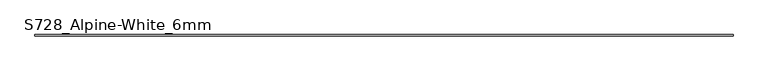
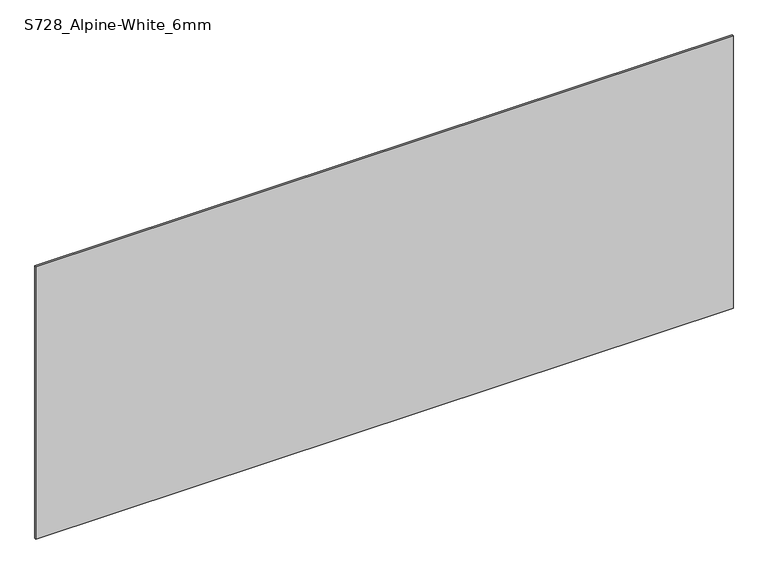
"""IFC4 building model written with IfcOpenShell, lengths in millimetres: plate geometry, Curtain-Panels_Outdoor-Material_HI-MACS_Solids : S728_Alpine-White_6mm."""

import ifcopenshell
import ifcopenshell.guid

model = None  # the IFC model being written
_history = None  # IfcOwnerHistory: only IFC2X3 demands one
_inside = {}  # id of a spatial element -> (the spatial element, [elements in it])
_under = {}  # id of a project, library or spatial element -> (it, [spatial elements below it])
_declared = {}  # id of a project -> (the project, [libraries it declares])
_typed = {}  # id of a type object -> (the type object, [elements of that type])
_made_of = {}  # id of a material, layer set ... -> (it, [elements and type objects made of it])


def new_model(schema):
    """Start an empty IFC model of exactly this schema.

    Asked for "IFC4X3", IfcOpenShell would pick the latest addendum, in which some entities
    have other attributes; the version numbers below select the first issue.
    IFC2X3 requires an IfcOwnerHistory on every rooted entity: one is made here for all.
    """
    global model, _history
    if schema == "IFC4X3":
        model = ifcopenshell.file(schema_version=(4, 3, 0, 0))
    else:
        model = ifcopenshell.file(schema=schema)
    _inside.clear()
    _under.clear()
    _declared.clear()
    _typed.clear()
    _made_of.clear()
    _history = None
    if model.schema == "IFC2X3":
        org = make("IfcOrganization", Name="unknown")
        user = make(
            "IfcPersonAndOrganization",
            ThePerson=make("IfcPerson", FamilyName="unknown"),
            TheOrganization=org,
        )
        app = make(
            "IfcApplication",
            ApplicationDeveloper=org,
            Version="unknown",
            ApplicationFullName="unknown",
            ApplicationIdentifier="unknown",
        )
        _history = make(
            "IfcOwnerHistory",
            OwningUser=user,
            OwningApplication=app,
            ChangeAction="ADDED",
            CreationDate=0,
        )
    return model


def make(cls, **values):
    """One entity of the class cls with the attributes given. An attribute that is None is left unset."""
    return model.create_entity(
        cls, **{name: value for name, value in values.items() if value is not None}
    )


def rooted(cls, **values):
    """An entity with a GlobalId (a new one), such as an element, a storey or a relation."""
    return make(cls, GlobalId=ifcopenshell.guid.new(), OwnerHistory=_history, **values)


def si_unit(unit_type, name, prefix=None):
    """IfcSIUnit, for example si_unit("LENGTHUNIT", "METRE", prefix="MILLI")."""
    return make("IfcSIUnit", UnitType=unit_type, Prefix=prefix, Name=name)


def assignment(units):
    """IfcUnitAssignment: the units of a project."""
    return None if units is None else make("IfcUnitAssignment", Units=units)


def point(xyz):
    """IfcCartesianPoint."""
    return None if xyz is None else make("IfcCartesianPoint", Coordinates=xyz)


def direction(xyz):
    """IfcDirection."""
    return None if xyz is None else make("IfcDirection", DirectionRatios=xyz)


def frame(location, z_axis=None, x_axis=None):
    """IfcAxis2Placement3D, a coordinate frame: its origin and axes. An axis left out is left unset."""
    return make(
        "IfcAxis2Placement3D",
        Location=point(location),
        Axis=direction(z_axis),
        RefDirection=direction(x_axis),
    )


def origin():
    """The frame at (0, 0, 0) with its axes left unset."""
    return frame((0.0, 0.0, 0.0))


def origin_with_axes():
    """The frame at (0, 0, 0) with the z axis (0, 0, 1) and the x axis (1, 0, 0) written out."""
    return frame((0.0, 0.0, 0.0), z_axis=(0.0, 0.0, 1.0), x_axis=(1.0, 0.0, 0.0))


def place(relative_to, where):
    """IfcLocalPlacement: puts the frame where relative to a parent placement (None: the world)."""
    return make(
        "IfcLocalPlacement", PlacementRelTo=relative_to, RelativePlacement=where
    )


def context(
    kind, dimensions, precision=None, world=None, true_north=None, identifier=None
):
    """IfcGeometricRepresentationContext, for example the 3D "Model" context."""
    return make(
        "IfcGeometricRepresentationContext",
        ContextIdentifier=identifier,
        ContextType=kind,
        CoordinateSpaceDimension=dimensions,
        Precision=precision,
        WorldCoordinateSystem=world,
        TrueNorth=true_north,
    )


def project(units=None, contexts=None):
    """IfcProject with its units and contexts."""
    return rooted(
        "IfcProject",
        Name="project",
        RepresentationContexts=contexts,
        UnitsInContext=assignment(units),
    )


def spatial(cls, under=None, at=None, **own):
    """A site, building, storey or space (cls), placed at a placement, below another one or the project."""
    s = rooted(cls, ObjectPlacement=at, **own)
    if under is not None:
        _under.setdefault(under.id(), (under, []))[1].append(s)
    return s


def polyline(points):
    """IfcPolyline through the points."""
    return make("IfcPolyline", Points=[point(p) for p in points])


def outline(outer, holes=None, kind="AREA"):
    """IfcArbitraryClosedProfileDef: a profile drawn as a closed curve; with holes, ...WithVoids."""
    if holes is None:
        return make("IfcArbitraryClosedProfileDef", ProfileType=kind, OuterCurve=outer)
    return make(
        "IfcArbitraryProfileDefWithVoids",
        ProfileType=kind,
        OuterCurve=outer,
        InnerCurves=holes,
    )


def extrude(swept, where, along, depth):
    """IfcExtrudedAreaSolid: the profile swept, set in the frame where, extruded along a direction by depth."""
    return make(
        "IfcExtrudedAreaSolid",
        SweptArea=swept,
        Position=where,
        ExtrudedDirection=direction(along),
        Depth=depth,
    )


def shape(context_of_items, identifier, shape_type, items):
    """IfcShapeRepresentation: the items that make up one representation, for example the "Body"."""
    return make(
        "IfcShapeRepresentation",
        ContextOfItems=context_of_items,
        RepresentationIdentifier=identifier,
        RepresentationType=shape_type,
        Items=items,
    )


def source(mapping_origin, context_of_items, identifier, shape_type, items):
    """IfcRepresentationMap: a shape defined once, which mapped items show again and again."""
    return make(
        "IfcRepresentationMap",
        MappingOrigin=mapping_origin,
        MappedRepresentation=shape(context_of_items, identifier, shape_type, items),
    )


def transform(
    local_origin,
    x_axis=None,
    y_axis=None,
    z_axis=None,
    scale=None,
    scale2=None,
    scale3=None,
    uniform=True,
):
    """IfcCartesianTransformationOperator3D, or its non-uniform kind. x_axis, y_axis, z_axis: its Axis1, 2, 3."""
    if uniform:
        return make(
            "IfcCartesianTransformationOperator3D",
            Axis1=direction(x_axis),
            Axis2=direction(y_axis),
            LocalOrigin=point(local_origin),
            Scale=scale,
            Axis3=direction(z_axis),
        )
    return make(
        "IfcCartesianTransformationOperator3DnonUniform",
        Axis1=direction(x_axis),
        Axis2=direction(y_axis),
        LocalOrigin=point(local_origin),
        Scale=scale,
        Axis3=direction(z_axis),
        Scale2=scale2,
        Scale3=scale3,
    )


def mapped(mapping_source, mapping_target):
    """IfcMappedItem: shows the shape of a source again, moved by a transform."""
    return make(
        "IfcMappedItem", MappingSource=mapping_source, MappingTarget=mapping_target
    )


def made_of(thing, what):
    """Note that an element or type object is made of a material, layer set ...; save() writes the relation."""
    if what is not None:
        _made_of.setdefault(what.id(), (what, []))[1].append(thing)
    return thing


def element(
    cls,
    number,
    at=None,
    inside=None,
    cuts=None,
    type_object=None,
    material=None,
    context=None,
    identifier="Body",
    shape_type=None,
    held_by="IfcProductDefinitionShape",
    body=None,
    shapes=None,
    **own,
):
    """One element of the class cls, such as IfcWall. Its Tag is "e" and its number.

    at: its placement. inside: the storey or other place that contains it. cuts: it is an
    opening in that element (IfcRelVoidsElement). A single representation is given by context,
    identifier, shape_type and body (its items); several are given by shapes. held_by: the class
    of the entity that holds the representations. save() writes the other relations.
    """
    e = rooted(cls, Tag="e%d" % number, ObjectPlacement=at, **own)
    if body is not None:
        shapes = [shape(context, identifier, shape_type, body)]
    if shapes is not None:
        e.Representation = make(held_by, Representations=shapes)
    if inside is not None:
        _inside.setdefault(inside.id(), (inside, []))[1].append(e)
    if cuts is not None:
        rooted(
            "IfcRelVoidsElement", RelatingBuildingElement=cuts, RelatedOpeningElement=e
        )
    if type_object is not None:
        _typed.setdefault(type_object.id(), (type_object, []))[1].append(e)
    return made_of(e, material)


def aggregate(whole, parts):
    """IfcRelAggregates: a whole, such as a stair, and the parts it consists of."""
    return rooted("IfcRelAggregates", RelatingObject=whole, RelatedObjects=parts)


def save(model, path):
    """Write the relations noted so far, then the file.

    IfcRelAggregates (storeys below a building ...), IfcRelContainedInSpatialStructure (elements
    in a storey), IfcRelDefinesByType, IfcRelAssociatesMaterial and IfcRelDeclares: one each for
    every whole, place, type object, material and project.
    """
    for whole, parts in _under.values():
        aggregate(whole, parts)
    for where, things in _inside.values():
        rooted(
            "IfcRelContainedInSpatialStructure",
            RelatedElements=things,
            RelatingStructure=where,
        )
    for kind, things in _typed.values():
        rooted("IfcRelDefinesByType", RelatedObjects=things, RelatingType=kind)
    for what, things in _made_of.values():
        rooted("IfcRelAssociatesMaterial", RelatedObjects=things, RelatingMaterial=what)
    for by, libraries in _declared.values():
        rooted("IfcRelDeclares", RelatingContext=by, RelatedDefinitions=libraries)
    model.write(path)


def s728_alpine_white_6mm_fc4668db(model_context):
    return source(origin(), model_context, "Body", "SweptSolid", [
        extrude(outline(polyline([(1840.0, 3.0), (1840.0, -3.0), (-1840.0, -3.0), (-1840.0, 3.0), (1840.0, 3.0)])), origin_with_axes(), (0.0, 0.0, 1.0), 1520.0),
    ])


if __name__ == "__main__":
    model = new_model("IFC4")
    model_context = context("Model", 3, world=origin())
    ifc_project = project(units=[si_unit("LENGTHUNIT", "METRE", prefix="MILLI")], contexts=[model_context])
    site = spatial("IfcSite", under=ifc_project)
    building = spatial("IfcBuilding", under=site)
    placement = place(None, origin())
    s728_alpine_white_6mm_shape = s728_alpine_white_6mm_fc4668db(model_context)
    element("IfcPlate", 1, ObjectType="Curtain-Panels_Outdoor-Material_HI-MACS_Solids : S728_Alpine-White_6mm", at=placement, inside=building, context=model_context, shape_type="MappedRepresentation", body=[
        mapped(s728_alpine_white_6mm_shape, transform((0.0, 0.0, 0.0), x_axis=(1.0, 0.0, 0.0), y_axis=(0.0, 1.0, 0.0), z_axis=(0.0, 0.0, 1.0))),
    ])
    save(model, "model.ifc")
